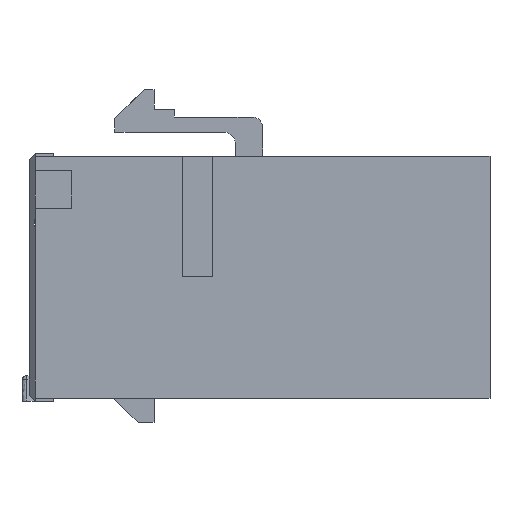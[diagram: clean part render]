
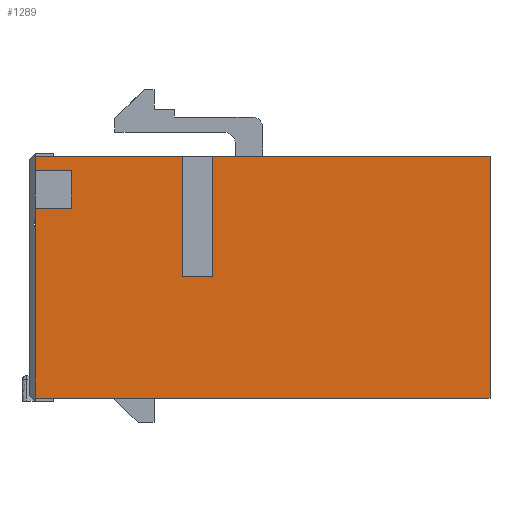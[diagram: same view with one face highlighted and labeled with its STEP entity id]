
A CAD part, front view. The second image highlights one B-rep face of the part: STEP entity #1289.
In plain terms, the highlighted free-form (B-spline) face has degree [1, 1] with [2, 2] control points.
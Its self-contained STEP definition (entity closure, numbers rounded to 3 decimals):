
#1048=CARTESIAN_POINT('',(9.8,0.,16.1));
#1049=VERTEX_POINT('',#1048);
#1059=CARTESIAN_POINT('',(9.8,0.,8.08));
#1060=VERTEX_POINT('',#1059);
#1061=CARTESIAN_POINT('',(9.8,0.,8.08));
#1062=CARTESIAN_POINT('',(9.8,0.,9.684));
#1063=CARTESIAN_POINT('',(9.8,0.,11.288));
#1064=CARTESIAN_POINT('',(9.8,0.,12.892));
#1065=CARTESIAN_POINT('',(9.8,0.,14.496));
#1066=CARTESIAN_POINT('',(9.8,0.,16.1));
#1067=B_SPLINE_CURVE_WITH_KNOTS('',5,(#1061,#1062,#1063,#1064,#1065,#1066),.UNSPECIFIED.,.F.,.U.,(6,6),(0.,8.02),.UNSPECIFIED.);
#1068=EDGE_CURVE('',#1060,#1049,#1067,.T.);
#1099=CARTESIAN_POINT('',(11.81,0.,8.08));
#1100=VERTEX_POINT('',#1099);
#1101=CARTESIAN_POINT('',(11.81,0.,8.08));
#1102=CARTESIAN_POINT('',(11.408,0.,8.08));
#1103=CARTESIAN_POINT('',(11.006,0.,8.08));
#1104=CARTESIAN_POINT('',(10.604,0.,8.08));
#1105=CARTESIAN_POINT('',(10.202,0.,8.08));
#1106=CARTESIAN_POINT('',(9.8,0.,8.08));
#1107=B_SPLINE_CURVE_WITH_KNOTS('',5,(#1101,#1102,#1103,#1104,#1105,#1106),.UNSPECIFIED.,.F.,.U.,(6,6),(0.,2.01),.UNSPECIFIED.);
#1108=EDGE_CURVE('',#1100,#1060,#1107,.T.);
#1139=CARTESIAN_POINT('',(11.81,0.,16.1));
#1140=VERTEX_POINT('',#1139);
#1141=CARTESIAN_POINT('',(11.81,0.,16.1));
#1142=CARTESIAN_POINT('',(11.81,0.,14.496));
#1143=CARTESIAN_POINT('',(11.81,0.,12.892));
#1144=CARTESIAN_POINT('',(11.81,0.,11.288));
#1145=CARTESIAN_POINT('',(11.81,0.,9.684));
#1146=CARTESIAN_POINT('',(11.81,0.,8.08));
#1147=B_SPLINE_CURVE_WITH_KNOTS('',5,(#1141,#1142,#1143,#1144,#1145,#1146),.UNSPECIFIED.,.F.,.U.,(6,6),(0.,8.02),.UNSPECIFIED.);
#1148=EDGE_CURVE('',#1140,#1100,#1147,.T.);
#1182=CARTESIAN_POINT('',(0.,0.,0.));
#1183=CARTESIAN_POINT('',(30.26,0.,0.));
#1184=CARTESIAN_POINT('',(0.,0.,16.1));
#1185=CARTESIAN_POINT('',(30.26,0.,16.1));
#1186=B_SPLINE_SURFACE_WITH_KNOTS('',1,1,((#1182,#1183),(#1184,#1185)),.PLANE_SURF.,.F.,.F.,.U.,(2,2),(2,2),(0.,1.),(0.,1.88),.UNSPECIFIED.);
#1187=CARTESIAN_POINT('',(30.26,0.,16.1));
#1188=VERTEX_POINT('',#1187);
#1189=CARTESIAN_POINT('',(30.26,0.,16.1));
#1190=CARTESIAN_POINT('',(26.57,0.,16.1));
#1191=CARTESIAN_POINT('',(22.88,0.,16.1));
#1192=CARTESIAN_POINT('',(19.19,0.,16.1));
#1193=CARTESIAN_POINT('',(15.5,0.,16.1));
#1194=CARTESIAN_POINT('',(11.81,0.,16.1));
#1195=B_SPLINE_CURVE_WITH_KNOTS('',5,(#1189,#1190,#1191,#1192,#1193,#1194),.UNSPECIFIED.,.F.,.U.,(6,6),(0.,18.45),.UNSPECIFIED.);
#1196=EDGE_CURVE('',#1188,#1140,#1195,.T.);
#1197=ORIENTED_EDGE('',*,*,#1196,.F.);
#1198=CARTESIAN_POINT('',(30.26,0.,0.));
#1199=VERTEX_POINT('',#1198);
#1200=CARTESIAN_POINT('',(30.26,0.,0.));
#1201=CARTESIAN_POINT('',(30.26,0.,3.22));
#1202=CARTESIAN_POINT('',(30.26,0.,6.44));
#1203=CARTESIAN_POINT('',(30.26,0.,9.66));
#1204=CARTESIAN_POINT('',(30.26,0.,12.88));
#1205=CARTESIAN_POINT('',(30.26,0.,16.1));
#1206=B_SPLINE_CURVE_WITH_KNOTS('',5,(#1200,#1201,#1202,#1203,#1204,#1205),.UNSPECIFIED.,.F.,.U.,(6,6),(0.,16.1),.UNSPECIFIED.);
#1207=EDGE_CURVE('',#1199,#1188,#1206,.T.);
#1208=ORIENTED_EDGE('',*,*,#1207,.F.);
#1209=CARTESIAN_POINT('',(0.,0.,0.));
#1210=VERTEX_POINT('',#1209);
#1211=CARTESIAN_POINT('',(0.,0.,0.));
#1212=CARTESIAN_POINT('',(6.052,0.,0.));
#1213=CARTESIAN_POINT('',(12.104,0.,0.));
#1214=CARTESIAN_POINT('',(18.156,0.,0.));
#1215=CARTESIAN_POINT('',(24.208,0.,0.));
#1216=CARTESIAN_POINT('',(30.26,0.,0.));
#1217=B_SPLINE_CURVE_WITH_KNOTS('',5,(#1211,#1212,#1213,#1214,#1215,#1216),.UNSPECIFIED.,.F.,.U.,(6,6),(0.,30.26),.UNSPECIFIED.);
#1218=EDGE_CURVE('',#1210,#1199,#1217,.T.);
#1219=ORIENTED_EDGE('',*,*,#1218,.F.);
#1220=CARTESIAN_POINT('',(0.,0.,12.63));
#1221=VERTEX_POINT('',#1220);
#1222=CARTESIAN_POINT('',(0.,0.,12.63));
#1223=CARTESIAN_POINT('',(0.,0.,10.104));
#1224=CARTESIAN_POINT('',(0.,0.,7.578));
#1225=CARTESIAN_POINT('',(0.,0.,5.052));
#1226=CARTESIAN_POINT('',(0.,0.,2.526));
#1227=CARTESIAN_POINT('',(0.,0.,0.));
#1228=B_SPLINE_CURVE_WITH_KNOTS('',5,(#1222,#1223,#1224,#1225,#1226,#1227),.UNSPECIFIED.,.F.,.U.,(6,6),(0.,12.63),.UNSPECIFIED.);
#1229=EDGE_CURVE('',#1221,#1210,#1228,.T.);
#1230=ORIENTED_EDGE('',*,*,#1229,.F.);
#1231=CARTESIAN_POINT('',(2.4,0.,12.63));
#1232=VERTEX_POINT('',#1231);
#1233=CARTESIAN_POINT('',(2.4,0.,12.63));
#1234=CARTESIAN_POINT('',(1.92,0.,12.63));
#1235=CARTESIAN_POINT('',(1.44,0.,12.63));
#1236=CARTESIAN_POINT('',(0.96,0.,12.63));
#1237=CARTESIAN_POINT('',(0.48,0.,12.63));
#1238=CARTESIAN_POINT('',(0.,0.,12.63));
#1239=B_SPLINE_CURVE_WITH_KNOTS('',5,(#1233,#1234,#1235,#1236,#1237,#1238),.UNSPECIFIED.,.F.,.U.,(6,6),(0.,2.4),.UNSPECIFIED.);
#1240=EDGE_CURVE('',#1232,#1221,#1239,.T.);
#1241=ORIENTED_EDGE('',*,*,#1240,.F.);
#1242=CARTESIAN_POINT('',(2.4,0.,15.15));
#1243=VERTEX_POINT('',#1242);
#1244=CARTESIAN_POINT('',(2.4,0.,15.15));
#1245=CARTESIAN_POINT('',(2.4,0.,14.646));
#1246=CARTESIAN_POINT('',(2.4,0.,14.142));
#1247=CARTESIAN_POINT('',(2.4,0.,13.638));
#1248=CARTESIAN_POINT('',(2.4,0.,13.134));
#1249=CARTESIAN_POINT('',(2.4,0.,12.63));
#1250=B_SPLINE_CURVE_WITH_KNOTS('',5,(#1244,#1245,#1246,#1247,#1248,#1249),.UNSPECIFIED.,.F.,.U.,(6,6),(0.,2.52),.UNSPECIFIED.);
#1251=EDGE_CURVE('',#1243,#1232,#1250,.T.);
#1252=ORIENTED_EDGE('',*,*,#1251,.F.);
#1253=CARTESIAN_POINT('',(0.,0.,15.15));
#1254=VERTEX_POINT('',#1253);
#1255=CARTESIAN_POINT('',(0.,0.,15.15));
#1256=CARTESIAN_POINT('',(0.48,0.,15.15));
#1257=CARTESIAN_POINT('',(0.96,0.,15.15));
#1258=CARTESIAN_POINT('',(1.44,0.,15.15));
#1259=CARTESIAN_POINT('',(1.92,0.,15.15));
#1260=CARTESIAN_POINT('',(2.4,0.,15.15));
#1261=B_SPLINE_CURVE_WITH_KNOTS('',5,(#1255,#1256,#1257,#1258,#1259,#1260),.UNSPECIFIED.,.F.,.U.,(6,6),(0.,2.4),.UNSPECIFIED.);
#1262=EDGE_CURVE('',#1254,#1243,#1261,.T.);
#1263=ORIENTED_EDGE('',*,*,#1262,.F.);
#1264=CARTESIAN_POINT('',(0.,0.,16.1));
#1265=VERTEX_POINT('',#1264);
#1266=CARTESIAN_POINT('',(0.,0.,16.1));
#1267=CARTESIAN_POINT('',(0.,0.,15.91));
#1268=CARTESIAN_POINT('',(0.,0.,15.72));
#1269=CARTESIAN_POINT('',(0.,0.,15.53));
#1270=CARTESIAN_POINT('',(0.,0.,15.34));
#1271=CARTESIAN_POINT('',(0.,0.,15.15));
#1272=B_SPLINE_CURVE_WITH_KNOTS('',5,(#1266,#1267,#1268,#1269,#1270,#1271),.UNSPECIFIED.,.F.,.U.,(6,6),(0.,0.95),.UNSPECIFIED.);
#1273=EDGE_CURVE('',#1265,#1254,#1272,.T.);
#1274=ORIENTED_EDGE('',*,*,#1273,.F.);
#1275=CARTESIAN_POINT('',(9.8,0.,16.1));
#1276=CARTESIAN_POINT('',(7.84,0.,16.1));
#1277=CARTESIAN_POINT('',(5.88,0.,16.1));
#1278=CARTESIAN_POINT('',(3.92,0.,16.1));
#1279=CARTESIAN_POINT('',(1.96,0.,16.1));
#1280=CARTESIAN_POINT('',(0.,0.,16.1));
#1281=B_SPLINE_CURVE_WITH_KNOTS('',5,(#1275,#1276,#1277,#1278,#1279,#1280),.UNSPECIFIED.,.F.,.U.,(6,6),(0.,9.8),.UNSPECIFIED.);
#1282=EDGE_CURVE('',#1049,#1265,#1281,.T.);
#1283=ORIENTED_EDGE('',*,*,#1282,.F.);
#1284=ORIENTED_EDGE('',*,*,#1068,.F.);
#1285=ORIENTED_EDGE('',*,*,#1108,.F.);
#1286=ORIENTED_EDGE('',*,*,#1148,.F.);
#1287=EDGE_LOOP('',(#1197,#1208,#1219,#1230,#1241,#1252,#1263,#1274,#1283,#1284,#1285,#1286));
#1288=FACE_OUTER_BOUND('',#1287,.F.);
#1289=ADVANCED_FACE('',(#1288),#1186,.F.);
